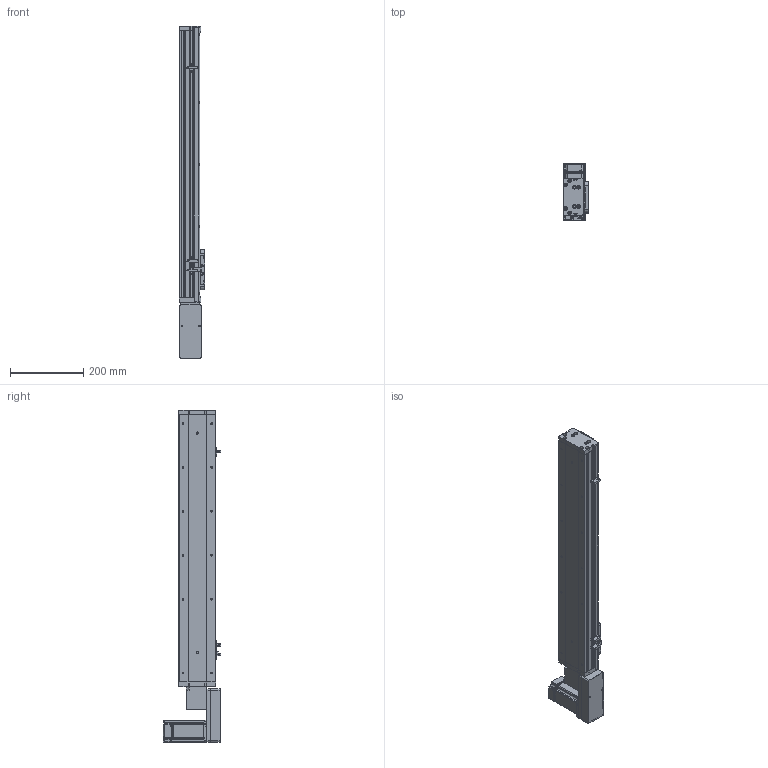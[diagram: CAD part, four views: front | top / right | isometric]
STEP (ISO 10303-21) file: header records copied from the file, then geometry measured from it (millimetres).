
FILE_DESCRIPTION (( 'STEP AP214' ), '1' );
FILE_NAME ('KSD100B-S550-MRB-CR.STEP', '2019-11-13T06:03:13', ( '微软用户' ), ( '微软中国' ), 'SwSTEP 2.0', 'SolidWorks 2014', '' );
FILE_SCHEMA (( 'AUTOMOTIVE_DESIGN' ));
Length unit declared in the file: millimetre
Products named in the file (15): 100宽底板全封闭550行程同步带; KSD100B-S550-MRB-CR; MHMD042G1CA_2_03; 悵誘欶奻狟殏; 100宽马达安装板连板上下折丝杆同步带; U倰嫖萇EEㄜSX672; 感应片100宽全封闭; 100宽马达安装板同步带右; 100遵鎮湛假蚾啣蜊; 100宽端板同步带全封闭; 100宽滚珠螺姆安装板1防护罩; 100宽滚珠螺姆安装板1; 100遵裔啣揤啣; 100遵裔啣550俴最; 100宽侧板550行程同步带
Assembly tree (18 placements, depth 2):
  KSD100B-S550-MRB-CR
    100宽底板全封闭550行程同步带
    100宽侧板550行程同步带  x2
    100遵裔啣550俴最
    100遵裔啣揤啣  x2
    100宽滚珠螺姆安装板1
    100宽滚珠螺姆安装板1防护罩
    100宽端板同步带全封闭
    100遵鎮湛假蚾啣蜊
    100宽马达安装板同步带右
    感应片100宽全封闭
    U倰嫖萇EEㄜSX672  x3
    100宽马达安装板连板上下折丝杆同步带
    悵誘欶奻狟殏
    MHMD042G1CA_2_03
Bounding box: 70 x 156.2 x 907 mm (x, y, z)
Volume: 1701811.5 mm3; surface area: 772592 mm2
Topology: 17 solids, 18 shells, 1705 faces, 4744 edges, 3055 vertices
Faces by surface type: cylinder 757, plane 733, cone 195, bspline 20
Entity records: 60168 total; most frequent: CARTESIAN_POINT 9104, DIRECTION 8230, ORIENTED_EDGE 7612, EDGE_CURVE 3878, AXIS2_PLACEMENT_3D 2959, VERTEX_POINT 2573, LINE 2312, VECTOR 2312
